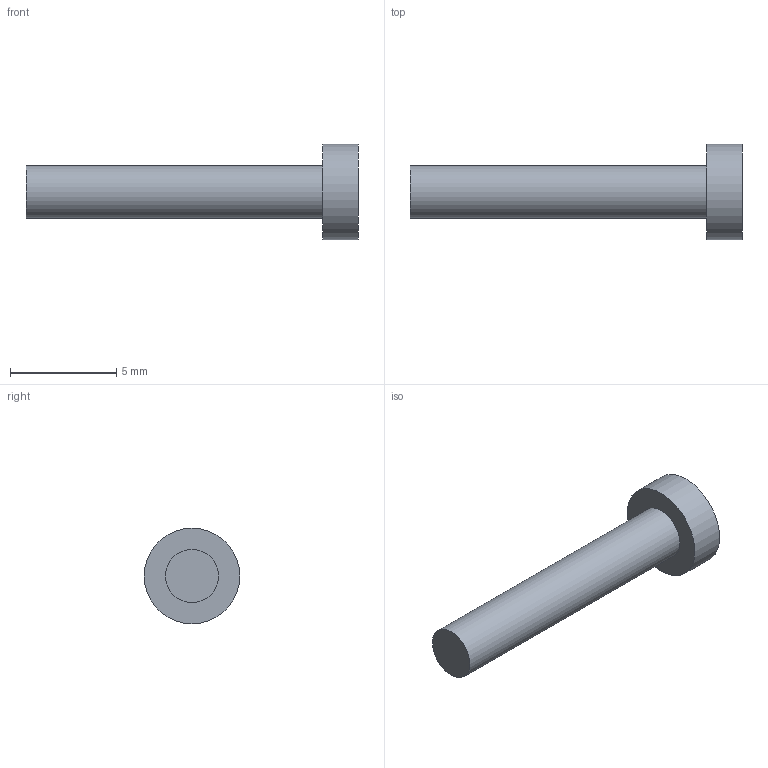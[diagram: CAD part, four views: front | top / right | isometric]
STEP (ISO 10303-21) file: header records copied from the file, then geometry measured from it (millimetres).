
FILE_DESCRIPTION(('Open CASCADE Model'),'2;1');
FILE_NAME('lower-fsr-pcb-mount-screw-m2p5-x-14.step', '2026-11-14T19:33:45',('Author'),('Open CASCADE'), 'Open CASCADE STEP processor 8.0','Open CASCADE 8.0','Unknown');
FILE_SCHEMA(('AP242_MANAGED_MODEL_BASED_3D_ENGINEERING_MIM_LF {1 0 10303 442 1 1 4 }' ));
Length unit declared in the file: millimetre
Products named in the file (1): Lower FSR PCB Mount Screw M2.5 x 14
Bounding box: 15.65 x 4.5 x 4.5 mm (x, y, z)
Volume: 95 mm3; surface area: 165.1 mm2
Topology: 1 solids, 1 shells, 5 faces, 6 edges, 4 vertices
Faces by surface type: plane 3, cylinder 2
Full cylindrical faces by diameter (mm): 2.5 x1, 4.5 x1
Entity records: 201 total; most frequent: DIRECTION 34, CARTESIAN_POINT 28, ORIENTED_EDGE 12, PCURVE 12, DEFINITIONAL_REPRESENTATION 12, AXIS2_PLACEMENT_3D 10, LINE 10, VECTOR 10
